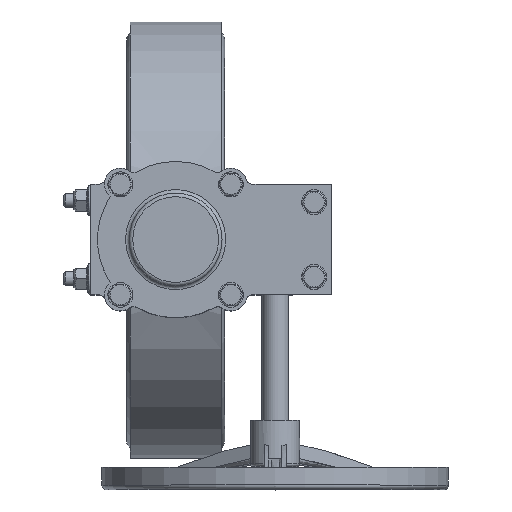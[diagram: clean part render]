
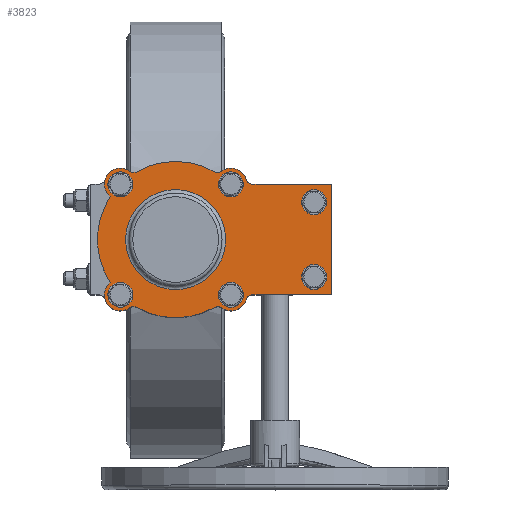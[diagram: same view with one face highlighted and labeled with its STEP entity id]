
A CAD part, top view. The second image highlights one B-rep face of the part: STEP entity #3823.
In plain terms, the highlighted planar face has unit normal (0, 0, 1).
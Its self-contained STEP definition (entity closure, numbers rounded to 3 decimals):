
#3823=ADVANCED_FACE('',(#7874,#7876,#7878,#7880,#7882,#7884,#7886,#7888),#7890,.T.);
#7874=FACE_BOUND('',#7875,.T.);
#7875=EDGE_LOOP('',(#14585,#14586,#14587,#14588,#14589,#14590,#14591,#14592,#14593,
#14594,#14595,#14596,#14597,#14598,#14599,#14600));
#7876=FACE_BOUND('',#7877,.T.);
#7877=EDGE_LOOP('',(#14601));
#7878=FACE_BOUND('',#7879,.T.);
#7879=EDGE_LOOP('',(#14602));
#7880=FACE_BOUND('',#7881,.T.);
#7881=EDGE_LOOP('',(#14603));
#7882=FACE_BOUND('',#7883,.T.);
#7883=EDGE_LOOP('',(#14604));
#7884=FACE_BOUND('',#7885,.T.);
#7885=EDGE_LOOP('',(#14605));
#7886=FACE_BOUND('',#7887,.T.);
#7887=EDGE_LOOP('',(#14606));
#7888=FACE_BOUND('',#7889,.T.);
#7889=EDGE_LOOP('',(#14607));
#7890=PLANE('',#7891);
#7891=AXIS2_PLACEMENT_3D('',#7892,#7893,#7894);
#7892=CARTESIAN_POINT('',(0.,0.,8.));
#7893=DIRECTION('',(0.,0.,1.));
#7894=DIRECTION('',(0.,1.,0.));
#14585=ORIENTED_EDGE('',*,*,#16414,.T.);
#14586=ORIENTED_EDGE('',*,*,#16415,.T.);
#14587=ORIENTED_EDGE('',*,*,#16416,.T.);
#14588=ORIENTED_EDGE('',*,*,#16417,.T.);
#14589=ORIENTED_EDGE('',*,*,#16418,.T.);
#14590=ORIENTED_EDGE('',*,*,#16419,.T.);
#14591=ORIENTED_EDGE('',*,*,#16420,.T.);
#14592=ORIENTED_EDGE('',*,*,#16421,.T.);
#14593=ORIENTED_EDGE('',*,*,#16422,.T.);
#14594=ORIENTED_EDGE('',*,*,#16423,.T.);
#14595=ORIENTED_EDGE('',*,*,#16424,.T.);
#14596=ORIENTED_EDGE('',*,*,#16425,.T.);
#14597=ORIENTED_EDGE('',*,*,#16426,.T.);
#14598=ORIENTED_EDGE('',*,*,#16427,.T.);
#14599=ORIENTED_EDGE('',*,*,#16428,.T.);
#14600=ORIENTED_EDGE('',*,*,#16429,.T.);
#14601=ORIENTED_EDGE('',*,*,#16430,.T.);
#14602=ORIENTED_EDGE('',*,*,#16431,.T.);
#14603=ORIENTED_EDGE('',*,*,#16432,.T.);
#14604=ORIENTED_EDGE('',*,*,#16433,.T.);
#14605=ORIENTED_EDGE('',*,*,#16434,.T.);
#14606=ORIENTED_EDGE('',*,*,#16435,.T.);
#14607=ORIENTED_EDGE('',*,*,#16436,.F.);
#16414=EDGE_CURVE('',#18655,#18656,#18657,.T.);
#16415=EDGE_CURVE('',#18656,#18658,#18659,.T.);
#16416=EDGE_CURVE('',#18658,#18660,#18661,.T.);
#16417=EDGE_CURVE('',#18660,#18662,#18663,.T.);
#16418=EDGE_CURVE('',#18662,#18664,#18665,.T.);
#16419=EDGE_CURVE('',#18664,#18666,#18667,.T.);
#16420=EDGE_CURVE('',#18666,#18668,#18669,.T.);
#16421=EDGE_CURVE('',#18668,#18670,#18671,.T.);
#16422=EDGE_CURVE('',#18670,#18672,#18673,.T.);
#16423=EDGE_CURVE('',#18672,#18674,#18675,.T.);
#16424=EDGE_CURVE('',#18674,#18676,#18677,.T.);
#16425=EDGE_CURVE('',#18676,#18678,#18679,.T.);
#16426=EDGE_CURVE('',#18678,#18680,#18681,.T.);
#16427=EDGE_CURVE('',#18680,#18682,#18683,.T.);
#16428=EDGE_CURVE('',#18682,#18684,#18685,.T.);
#16429=EDGE_CURVE('',#18684,#18655,#18686,.T.);
#16430=EDGE_CURVE('',#18687,#18687,#18688,.F.);
#16431=EDGE_CURVE('',#18689,#18689,#18690,.F.);
#16432=EDGE_CURVE('',#18691,#18691,#18692,.F.);
#16433=EDGE_CURVE('',#18693,#18693,#18694,.F.);
#16434=EDGE_CURVE('',#18695,#18695,#18696,.F.);
#16435=EDGE_CURVE('',#18697,#18697,#18698,.F.);
#16436=EDGE_CURVE('',#18699,#18699,#18700,.T.);
#18655=VERTEX_POINT('',#26124);
#18656=VERTEX_POINT('',#26125);
#18657=CIRCLE('',#26126,8.);
#18658=VERTEX_POINT('',#26130);
#18659=CIRCLE('',#26131,18.);
#18660=VERTEX_POINT('',#26135);
#18661=CIRCLE('',#26136,8.);
#18662=VERTEX_POINT('',#26140);
#18663=LINE('',#26141,#26142);
#18664=VERTEX_POINT('',#26144);
#18665=LINE('',#26145,#26146);
#18666=VERTEX_POINT('',#26148);
#18667=LINE('',#26149,#26150);
#18668=VERTEX_POINT('',#26152);
#18669=CIRCLE('',#26153,8.);
#18670=VERTEX_POINT('',#26157);
#18671=CIRCLE('',#26158,18.);
#18672=VERTEX_POINT('',#26162);
#18673=CIRCLE('',#26163,8.);
#18674=VERTEX_POINT('',#26167);
#18675=CIRCLE('',#26168,87.5);
#18676=VERTEX_POINT('',#26172);
#18677=CIRCLE('',#26173,8.);
#18678=VERTEX_POINT('',#26177);
#18679=CIRCLE('',#26178,18.);
#18680=VERTEX_POINT('',#26182);
#18681=CIRCLE('',#26183,87.5);
#18682=VERTEX_POINT('',#26187);
#18683=CIRCLE('',#26188,18.);
#18684=VERTEX_POINT('',#26192);
#18685=CIRCLE('',#26193,8.);
#18686=CIRCLE('',#26197,87.5);
#18687=VERTEX_POINT('',#26201);
#18688=CIRCLE('',#26202,8.);
#18689=VERTEX_POINT('',#26206);
#18690=CIRCLE('',#26207,8.);
#18691=VERTEX_POINT('',#26211);
#18692=CIRCLE('',#26212,8.);
#18693=VERTEX_POINT('',#26216);
#18694=CIRCLE('',#26217,8.);
#18695=VERTEX_POINT('',#26221);
#18696=CIRCLE('',#26222,8.);
#18697=VERTEX_POINT('',#26226);
#18698=CIRCLE('',#26227,8.);
#18699=VERTEX_POINT('',#26231);
#18700=CIRCLE('',#26232,56.);
#26124=CARTESIAN_POINT('',(76.196,43.016,8.));
#26125=CARTESIAN_POINT('',(76.612,51.541,8.));
#26126=AXIS2_PLACEMENT_3D('',#26127,#26128,#26129);
#26127=CARTESIAN_POINT('',(83.163,46.949,8.));
#26128=DIRECTION('',(0.,0.,-1.));
#26129=DIRECTION('',(-0.871,-0.492,0.));
#26130=CARTESIAN_POINT('',(67.41,78.999,8.));
#26131=AXIS2_PLACEMENT_3D('',#26132,#26133,#26134);
#26132=CARTESIAN_POINT('',(61.872,61.872,8.));
#26133=DIRECTION('',(0.,0.,1.));
#26134=DIRECTION('',(0.819,-0.574,0.));
#26135=CARTESIAN_POINT('',(61.872,86.61,8.));
#26136=AXIS2_PLACEMENT_3D('',#26137,#26138,#26139);
#26137=CARTESIAN_POINT('',(69.872,86.61,8.));
#26138=DIRECTION('',(0.,0.,-1.));
#26139=DIRECTION('',(-0.308,-0.951,0.));
#26140=CARTESIAN_POINT('',(61.872,175.,8.));
#26141=CARTESIAN_POINT('',(61.872,86.61,8.));
#26142=VECTOR('',#26143,1.);
#26143=DIRECTION('',(0.,1.,0.));
#26144=CARTESIAN_POINT('',(-61.872,175.,8.));
#26145=CARTESIAN_POINT('',(61.872,175.,8.));
#26146=VECTOR('',#26147,1.);
#26147=DIRECTION('',(-1.,0.,0.));
#26148=CARTESIAN_POINT('',(-61.872,86.61,8.));
#26149=CARTESIAN_POINT('',(-61.872,175.,8.));
#26150=VECTOR('',#26151,1.);
#26151=DIRECTION('',(0.,-1.,0.));
#26152=CARTESIAN_POINT('',(-67.41,78.999,8.));
#26153=AXIS2_PLACEMENT_3D('',#26154,#26155,#26156);
#26154=CARTESIAN_POINT('',(-69.872,86.61,8.));
#26155=DIRECTION('',(0.,0.,-1.));
#26156=DIRECTION('',(1.,0.,0.));
#26157=CARTESIAN_POINT('',(-76.612,51.541,8.));
#26158=AXIS2_PLACEMENT_3D('',#26159,#26160,#26161);
#26159=CARTESIAN_POINT('',(-61.872,61.872,8.));
#26160=DIRECTION('',(0.,0.,1.));
#26161=DIRECTION('',(-0.308,0.951,0.));
#26162=CARTESIAN_POINT('',(-76.196,43.016,8.));
#26163=AXIS2_PLACEMENT_3D('',#26164,#26165,#26166);
#26164=CARTESIAN_POINT('',(-83.163,46.949,8.));
#26165=DIRECTION('',(0.,0.,-1.));
#26166=DIRECTION('',(0.819,0.574,0.));
#26167=CARTESIAN_POINT('',(-76.196,-43.016,8.));
#26168=AXIS2_PLACEMENT_3D('',#26169,#26170,#26171);
#26169=CARTESIAN_POINT('',(0.,0.,8.));
#26170=DIRECTION('',(0.,0.,1.));
#26171=DIRECTION('',(-0.871,0.492,0.));
#26172=CARTESIAN_POINT('',(-76.612,-51.541,8.));
#26173=AXIS2_PLACEMENT_3D('',#26174,#26175,#26176);
#26174=CARTESIAN_POINT('',(-83.163,-46.949,8.));
#26175=DIRECTION('',(0.,0.,-1.));
#26176=DIRECTION('',(0.871,0.492,0.));
#26177=CARTESIAN_POINT('',(-47.902,-73.223,8.));
#26178=AXIS2_PLACEMENT_3D('',#26179,#26180,#26181);
#26179=CARTESIAN_POINT('',(-61.872,-61.872,8.));
#26180=DIRECTION('',(0.,0.,1.));
#26181=DIRECTION('',(-0.819,0.574,0.));
#26182=CARTESIAN_POINT('',(47.902,-73.223,8.));
#26183=AXIS2_PLACEMENT_3D('',#26184,#26185,#26186);
#26184=CARTESIAN_POINT('',(0.,0.,8.));
#26185=DIRECTION('',(0.,0.,1.));
#26186=DIRECTION('',(-0.547,-0.837,0.));
#26187=CARTESIAN_POINT('',(76.612,-51.541,8.));
#26188=AXIS2_PLACEMENT_3D('',#26189,#26190,#26191);
#26189=CARTESIAN_POINT('',(61.872,-61.872,8.));
#26190=DIRECTION('',(0.,0.,1.));
#26191=DIRECTION('',(-0.776,-0.631,0.));
#26192=CARTESIAN_POINT('',(76.196,-43.016,8.));
#26193=AXIS2_PLACEMENT_3D('',#26194,#26195,#26196);
#26194=CARTESIAN_POINT('',(83.163,-46.949,8.));
#26195=DIRECTION('',(0.,0.,-1.));
#26196=DIRECTION('',(-0.819,-0.574,0.));
#26197=AXIS2_PLACEMENT_3D('',#26198,#26199,#26200);
#26198=CARTESIAN_POINT('',(0.,0.,8.));
#26199=DIRECTION('',(0.,0.,1.));
#26200=DIRECTION('',(0.871,-0.492,0.));
#26201=CARTESIAN_POINT('',(-33.872,155.,8.));
#26202=AXIS2_PLACEMENT_3D('',#26203,#26204,#26205);
#26203=CARTESIAN_POINT('',(-41.872,155.,8.));
#26204=DIRECTION('',(0.,0.,1.));
#26205=DIRECTION('',(1.,0.,0.));
#26206=CARTESIAN_POINT('',(49.872,155.,8.));
#26207=AXIS2_PLACEMENT_3D('',#26208,#26209,#26210);
#26208=CARTESIAN_POINT('',(41.872,155.,8.));
#26209=DIRECTION('',(0.,0.,1.));
#26210=DIRECTION('',(1.,0.,0.));
#26211=CARTESIAN_POINT('',(69.872,-61.872,8.));
#26212=AXIS2_PLACEMENT_3D('',#26213,#26214,#26215);
#26213=CARTESIAN_POINT('',(61.872,-61.872,8.));
#26214=DIRECTION('',(0.,0.,1.));
#26215=DIRECTION('',(1.,0.,0.));
#26216=CARTESIAN_POINT('',(-61.872,-69.872,8.));
#26217=AXIS2_PLACEMENT_3D('',#26218,#26219,#26220);
#26218=CARTESIAN_POINT('',(-61.872,-61.872,8.));
#26219=DIRECTION('',(0.,0.,1.));
#26220=DIRECTION('',(0.,-1.,0.));
#26221=CARTESIAN_POINT('',(-69.872,61.872,8.));
#26222=AXIS2_PLACEMENT_3D('',#26223,#26224,#26225);
#26223=CARTESIAN_POINT('',(-61.872,61.872,8.));
#26224=DIRECTION('',(0.,0.,1.));
#26225=DIRECTION('',(-1.,0.,0.));
#26226=CARTESIAN_POINT('',(61.872,69.872,8.));
#26227=AXIS2_PLACEMENT_3D('',#26228,#26229,#26230);
#26228=CARTESIAN_POINT('',(61.872,61.872,8.));
#26229=DIRECTION('',(0.,0.,1.));
#26230=DIRECTION('',(0.,1.,0.));
#26231=CARTESIAN_POINT('',(-56.,0.,8.));
#26232=AXIS2_PLACEMENT_3D('',#26233,#26234,#26235);
#26233=CARTESIAN_POINT('',(0.,0.,8.));
#26234=DIRECTION('',(0.,0.,1.));
#26235=DIRECTION('',(-1.,0.,0.));
